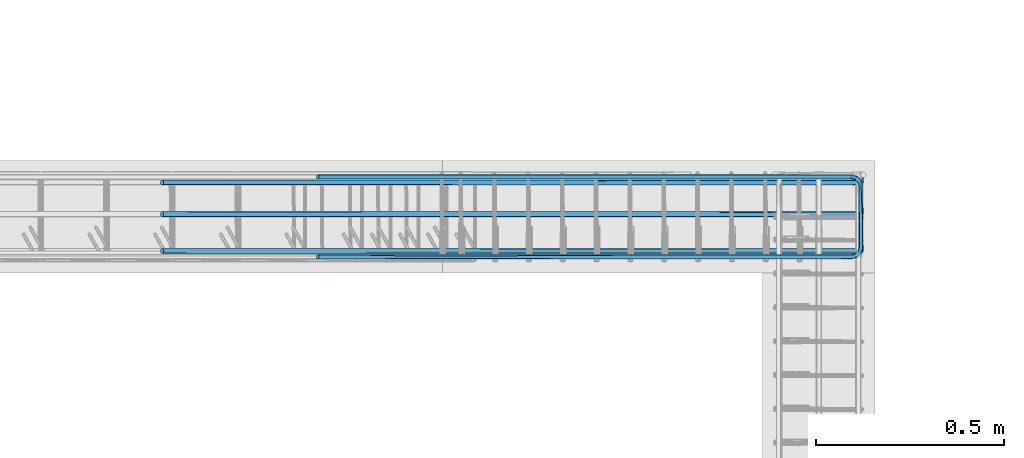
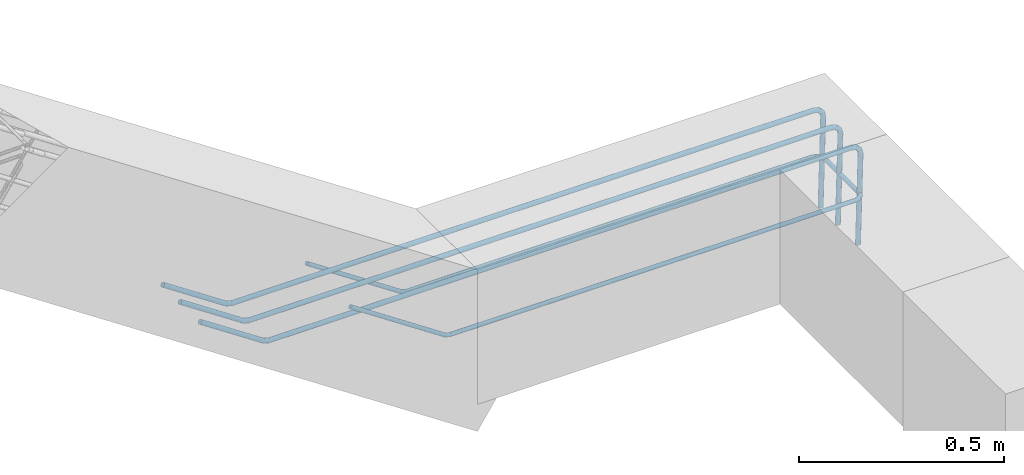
# One storey, part 18 of 24: 2 reinforcing bars.
"""IFC2X3 building model written with IfcOpenShell, lengths in metres."""

import ifcopenshell
import ifcopenshell.guid

model = None  # the IFC model being written
_history = None  # IfcOwnerHistory: only IFC2X3 demands one
_inside = {}  # id of a spatial element -> (the spatial element, [elements in it])
_under = {}  # id of a project, library or spatial element -> (it, [spatial elements below it])
_declared = {}  # id of a project -> (the project, [libraries it declares])
_typed = {}  # id of a type object -> (the type object, [elements of that type])
_made_of = {}  # id of a material, layer set ... -> (it, [elements and type objects made of it])


def new_model(schema):
    """Start an empty IFC model of exactly this schema.

    Asked for "IFC4X3", IfcOpenShell would pick the latest addendum, in which some entities
    have other attributes; the version numbers below select the first issue.
    IFC2X3 requires an IfcOwnerHistory on every rooted entity: one is made here for all.
    """
    global model, _history
    if schema == "IFC4X3":
        model = ifcopenshell.file(schema_version=(4, 3, 0, 0))
    else:
        model = ifcopenshell.file(schema=schema)
    _inside.clear()
    _under.clear()
    _declared.clear()
    _typed.clear()
    _made_of.clear()
    _history = None
    if model.schema == "IFC2X3":
        org = make("IfcOrganization", Name="unknown")
        user = make(
            "IfcPersonAndOrganization",
            ThePerson=make("IfcPerson", FamilyName="unknown"),
            TheOrganization=org,
        )
        app = make(
            "IfcApplication",
            ApplicationDeveloper=org,
            Version="unknown",
            ApplicationFullName="unknown",
            ApplicationIdentifier="unknown",
        )
        _history = make(
            "IfcOwnerHistory",
            OwningUser=user,
            OwningApplication=app,
            ChangeAction="ADDED",
            CreationDate=0,
        )
    return model


def make(cls, **values):
    """One entity of the class cls with the attributes given. An attribute that is None is left unset."""
    return model.create_entity(
        cls, **{name: value for name, value in values.items() if value is not None}
    )


def entity(cls, *values):
    """Any entity or typed value of the class cls, its attributes in the order of the schema. None: left unset."""
    e = model.create_entity(cls)
    for i, value in enumerate(values):
        if value is not None:
            e[i] = value
    return e


def rooted(cls, **values):
    """An entity with a GlobalId (a new one), such as an element, a storey or a relation."""
    return make(cls, GlobalId=ifcopenshell.guid.new(), OwnerHistory=_history, **values)


def si_unit(unit_type, name, prefix=None):
    """IfcSIUnit, for example si_unit("LENGTHUNIT", "METRE", prefix="MILLI")."""
    return make("IfcSIUnit", UnitType=unit_type, Prefix=prefix, Name=name)


def assignment(units):
    """IfcUnitAssignment: the units of a project."""
    return None if units is None else make("IfcUnitAssignment", Units=units)


def point(xyz):
    """IfcCartesianPoint."""
    return None if xyz is None else make("IfcCartesianPoint", Coordinates=xyz)


def direction(xyz):
    """IfcDirection."""
    return None if xyz is None else make("IfcDirection", DirectionRatios=xyz)


def frame(location, z_axis=None, x_axis=None):
    """IfcAxis2Placement3D, a coordinate frame: its origin and axes. An axis left out is left unset."""
    return make(
        "IfcAxis2Placement3D",
        Location=point(location),
        Axis=direction(z_axis),
        RefDirection=direction(x_axis),
    )


def origin():
    """The frame at (0, 0, 0) with its axes left unset."""
    return frame((0.0, 0.0, 0.0))


def place(relative_to, where):
    """IfcLocalPlacement: puts the frame where relative to a parent placement (None: the world)."""
    return make(
        "IfcLocalPlacement", PlacementRelTo=relative_to, RelativePlacement=where
    )


def context(
    kind, dimensions, precision=None, world=None, true_north=None, identifier=None
):
    """IfcGeometricRepresentationContext, for example the 3D "Model" context."""
    return make(
        "IfcGeometricRepresentationContext",
        ContextIdentifier=identifier,
        ContextType=kind,
        CoordinateSpaceDimension=dimensions,
        Precision=precision,
        WorldCoordinateSystem=world,
        TrueNorth=true_north,
    )


def subcontext(parent, identifier, kind, view, scale=None):
    """IfcGeometricRepresentationSubContext, for example "Body" below "Model"."""
    return make(
        "IfcGeometricRepresentationSubContext",
        ContextIdentifier=identifier,
        ContextType=kind,
        ParentContext=parent,
        TargetScale=scale,
        TargetView=view,
    )


def project(units=None, contexts=None):
    """IfcProject with its units and contexts."""
    return rooted(
        "IfcProject",
        Name="project",
        RepresentationContexts=contexts,
        UnitsInContext=assignment(units),
    )


def spatial(cls, under=None, at=None, **own):
    """A site, building, storey or space (cls), placed at a placement, below another one or the project."""
    s = rooted(cls, ObjectPlacement=at, **own)
    if under is not None:
        _under.setdefault(under.id(), (under, []))[1].append(s)
    return s


def shape(context_of_items, identifier, shape_type, items):
    """IfcShapeRepresentation: the items that make up one representation, for example the "Body"."""
    return make(
        "IfcShapeRepresentation",
        ContextOfItems=context_of_items,
        RepresentationIdentifier=identifier,
        RepresentationType=shape_type,
        Items=items,
    )


def source(mapping_origin, context_of_items, identifier, shape_type, items):
    """IfcRepresentationMap: a shape defined once, which mapped items show again and again."""
    return make(
        "IfcRepresentationMap",
        MappingOrigin=mapping_origin,
        MappedRepresentation=shape(context_of_items, identifier, shape_type, items),
    )


def transform(
    local_origin,
    x_axis=None,
    y_axis=None,
    z_axis=None,
    scale=None,
    scale2=None,
    scale3=None,
    uniform=True,
):
    """IfcCartesianTransformationOperator3D, or its non-uniform kind. x_axis, y_axis, z_axis: its Axis1, 2, 3."""
    if uniform:
        return make(
            "IfcCartesianTransformationOperator3D",
            Axis1=direction(x_axis),
            Axis2=direction(y_axis),
            LocalOrigin=point(local_origin),
            Scale=scale,
            Axis3=direction(z_axis),
        )
    return make(
        "IfcCartesianTransformationOperator3DnonUniform",
        Axis1=direction(x_axis),
        Axis2=direction(y_axis),
        LocalOrigin=point(local_origin),
        Scale=scale,
        Axis3=direction(z_axis),
        Scale2=scale2,
        Scale3=scale3,
    )


def mapped(mapping_source, mapping_target):
    """IfcMappedItem: shows the shape of a source again, moved by a transform."""
    return make(
        "IfcMappedItem", MappingSource=mapping_source, MappingTarget=mapping_target
    )


def made_of(thing, what):
    """Note that an element or type object is made of a material, layer set ...; save() writes the relation."""
    if what is not None:
        _made_of.setdefault(what.id(), (what, []))[1].append(thing)
    return thing


def element(
    cls,
    number,
    at=None,
    inside=None,
    cuts=None,
    type_object=None,
    material=None,
    context=None,
    identifier="Body",
    shape_type=None,
    held_by="IfcProductDefinitionShape",
    body=None,
    shapes=None,
    **own,
):
    """One element of the class cls, such as IfcWall. Its Tag is "e" and its number.

    at: its placement. inside: the storey or other place that contains it. cuts: it is an
    opening in that element (IfcRelVoidsElement). A single representation is given by context,
    identifier, shape_type and body (its items); several are given by shapes. held_by: the class
    of the entity that holds the representations. save() writes the other relations.
    """
    e = rooted(cls, Tag="e%d" % number, ObjectPlacement=at, **own)
    if body is not None:
        shapes = [shape(context, identifier, shape_type, body)]
    if shapes is not None:
        e.Representation = make(held_by, Representations=shapes)
    if inside is not None:
        _inside.setdefault(inside.id(), (inside, []))[1].append(e)
    if cuts is not None:
        rooted(
            "IfcRelVoidsElement", RelatingBuildingElement=cuts, RelatedOpeningElement=e
        )
    if type_object is not None:
        _typed.setdefault(type_object.id(), (type_object, []))[1].append(e)
    return made_of(e, material)


def aggregate(whole, parts):
    """IfcRelAggregates: a whole, such as a stair, and the parts it consists of."""
    return rooted("IfcRelAggregates", RelatingObject=whole, RelatedObjects=parts)


def save(model, path):
    """Write the relations noted so far, then the file.

    IfcRelAggregates (storeys below a building ...), IfcRelContainedInSpatialStructure (elements
    in a storey), IfcRelDefinesByType, IfcRelAssociatesMaterial and IfcRelDeclares: one each for
    every whole, place, type object, material and project.
    """
    for whole, parts in _under.values():
        aggregate(whole, parts)
    for where, things in _inside.values():
        rooted(
            "IfcRelContainedInSpatialStructure",
            RelatedElements=things,
            RelatingStructure=where,
        )
    for kind, things in _typed.values():
        rooted("IfcRelDefinesByType", RelatedObjects=things, RelatingType=kind)
    for what, things in _made_of.values():
        rooted("IfcRelAssociatesMaterial", RelatedObjects=things, RelatingMaterial=what)
    for by, libraries in _declared.values():
        rooted("IfcRelDeclares", RelatingContext=by, RelatedDefinitions=libraries)
    model.write(path)


model = new_model("IFC2X3")

# Units and contexts
model_context = context("Model", 3, precision=0.0, world=origin(), true_north=direction((0.0, 1.0)))
plan_context = context("Plan", 3, precision=0.0, world=origin(), true_north=direction((0.0, 1.0)))
body_context = subcontext(model_context, "Body", "Model", "MODEL_VIEW", scale=1.0)
ifc_project = project(units=[si_unit("LENGTHUNIT", "METRE"), si_unit("AREAUNIT", "SQUARE_METRE"), si_unit("VOLUMEUNIT", "CUBIC_METRE"), si_unit("PLANEANGLEUNIT", "RADIAN"), si_unit("THERMODYNAMICTEMPERATUREUNIT", "DEGREE_CELSIUS"), si_unit("FORCEUNIT", "NEWTON"), si_unit("MASSUNIT", "GRAM", prefix="KILO")], contexts=[model_context, plan_context])

# Site, building, storey
placement = place(None, origin())
site = spatial("IfcSite", under=ifc_project, at=placement, Name="Default Site", CompositionType="ELEMENT")
building = spatial("IfcBuilding", under=site, at=placement, Name="Default Building", CompositionType="ELEMENT")
storey_placement = place(placement, frame((0.0, 0.0, 3.3), z_axis=(1.0, 0.0, 0.0), x_axis=(0.0, 0.0, 1.0)))
storey = spatial("IfcBuildingStorey", under=building, at=storey_placement, Name="Piano 2", CompositionType="ELEMENT", Elevation=3.3)

# Reinforcing bars
shared_shape_1 = source(origin(), body_context, None, "AdvancedSweptSolid", [
    entity("IfcSweptDiskSolid", entity("IfcCompositeCurve", [entity("IfcCompositeCurveSegment", "CONTINUOUS", True, entity("IfcPolyline", [entity("IfcCartesianPoint", [0.0, 0.0, 0.0]), entity("IfcCartesianPoint", [0.177625, 0.0, -0.118417]), entity("IfcCartesianPoint", [0.193156, 0.0, -0.123119]), entity("IfcCartesianPoint", [0.732723, 0.0, -0.123119]), entity("IfcCartesianPoint", [1.830347, 0.0, -0.123119]), entity("IfcCartesianPoint", [1.844347, 0.000169, -0.126867]), entity("IfcCartesianPoint", [1.854596, 0.000632, -0.137105]), entity("IfcCartesianPoint", [1.858347, 0.001263, -0.151091]), entity("IfcCartesianPoint", [1.858347, 0.013729, -0.427119])]))], False), 0.007, 0.0, 0.0),
])
shared_shape_2 = source(origin(), body_context, None, "MappedRepresentation", [mapped(shared_shape_1, transform((15.253653, 4.909, 1.371119)))])
shared_shape_3 = source(origin(), body_context, None, "AdvancedSweptSolid", [
    entity("IfcSweptDiskSolid", entity("IfcCompositeCurve", [entity("IfcCompositeCurveSegment", "CONTINUOUS", True, entity("IfcPolyline", [entity("IfcCartesianPoint", [0.0, 0.0, 0.0]), entity("IfcCartesianPoint", [0.177625, 0.0, -0.118417]), entity("IfcCartesianPoint", [0.193156, 0.0, -0.123119]), entity("IfcCartesianPoint", [0.732723, 0.0, -0.123119]), entity("IfcCartesianPoint", [1.830347, 0.0, -0.123119]), entity("IfcCartesianPoint", [1.844347, 0.000169, -0.126867]), entity("IfcCartesianPoint", [1.854596, 0.000632, -0.137105]), entity("IfcCartesianPoint", [1.858347, 0.001263, -0.151091]), entity("IfcCartesianPoint", [1.858347, 0.013729, -0.427119])]))], False), 0.007, 0.0, 0.0),
])
shared_shape_4 = source(origin(), body_context, None, "MappedRepresentation", [mapped(shared_shape_3, transform((15.253653, 5.007, 1.371119)))])
shared_shape_5 = source(origin(), body_context, None, "AdvancedSweptSolid", [
    entity("IfcSweptDiskSolid", entity("IfcCompositeCurve", [entity("IfcCompositeCurveSegment", "CONTINUOUS", True, entity("IfcPolyline", [entity("IfcCartesianPoint", [0.0, 0.0, 0.0]), entity("IfcCartesianPoint", [0.177625, 0.0, -0.118417]), entity("IfcCartesianPoint", [0.193156, 0.0, -0.123119]), entity("IfcCartesianPoint", [0.732723, 0.0, -0.123119]), entity("IfcCartesianPoint", [1.830347, 0.0, -0.123119]), entity("IfcCartesianPoint", [1.844347, 0.000169, -0.126867]), entity("IfcCartesianPoint", [1.854596, 0.000632, -0.137105]), entity("IfcCartesianPoint", [1.858347, 0.001263, -0.151091]), entity("IfcCartesianPoint", [1.858347, 0.013729, -0.427119])]))], False), 0.007, 0.0, 0.0),
])
shared_shape_6 = source(origin(), body_context, None, "MappedRepresentation", [mapped(shared_shape_5, transform((15.253653, 5.091, 1.371119)))])
element("IfcReinforcingBar", 1, at=placement, inside=storey, Name="Arm Superiore; Trave:11 [Piano:2]", BarLength=6.586558, BarRole="MAIN", BarSurface="TEXTURED", NominalDiameter=0.014, shapes=[
    shape(body_context, None, "MappedRepresentation", [mapped(shared_shape_2, transform((0.0, 0.0, 0.0))), mapped(shared_shape_4, transform((0.0, 0.0, 0.0))), mapped(shared_shape_6, transform((0.0, 0.0, 0.0)))]),
])
shared_shape_7 = source(origin(), body_context, None, "AdvancedSweptSolid", [
    entity("IfcSweptDiskSolid", entity("IfcCompositeCurve", [entity("IfcCompositeCurveSegment", "CONTINUOUS", True, entity("IfcPolyline", [entity("IfcCartesianPoint", [0.0, 0.0, 0.0]), entity("IfcCartesianPoint", [0.265958, 0.0, -0.177306]), entity("IfcCartesianPoint", [0.279271, 0.0, -0.181336]), entity("IfcCartesianPoint", [1.33256, 0.0, -0.181336]), entity("IfcCartesianPoint", [1.42056, 0.0, -0.181336]), entity("IfcCartesianPoint", [1.43256, -0.003215, -0.181336]), entity("IfcCartesianPoint", [1.441344, -0.012, -0.181336]), entity("IfcCartesianPoint", [1.44456, -0.024, -0.181336]), entity("IfcCartesianPoint", [1.44456, -0.12, -0.181336])]))], False), 0.006, 0.0, 0.0),
])
shared_shape_8 = source(origin(), body_context, None, "MappedRepresentation", [mapped(shared_shape_7, transform((15.66744, 5.106, 1.280336)))])
shared_shape_9 = source(origin(), body_context, None, "AdvancedSweptSolid", [
    entity("IfcSweptDiskSolid", entity("IfcCompositeCurve", [entity("IfcCompositeCurveSegment", "CONTINUOUS", True, entity("IfcPolyline", [entity("IfcCartesianPoint", [0.0, 0.0, 0.0]), entity("IfcCartesianPoint", [0.265958, 0.0, -0.177306]), entity("IfcCartesianPoint", [0.279271, 0.0, -0.181336]), entity("IfcCartesianPoint", [1.33256, 0.0, -0.181336]), entity("IfcCartesianPoint", [1.42056, 0.0, -0.181336]), entity("IfcCartesianPoint", [1.43256, 0.003215, -0.181336]), entity("IfcCartesianPoint", [1.441344, 0.012, -0.181336]), entity("IfcCartesianPoint", [1.44456, 0.024, -0.181336]), entity("IfcCartesianPoint", [1.44456, 0.12, -0.181336])]))], False), 0.006, 0.0, 0.0),
])
shared_shape_10 = source(origin(), body_context, None, "MappedRepresentation", [mapped(shared_shape_9, transform((15.66744, 4.894, 1.280336)))])
element("IfcReinforcingBar", 2, at=placement, inside=storey, Name="Arm Generica; Trave:11 [Piano:2]", BarLength=3.216221, BarRole="NOTDEFINED", BarSurface="TEXTURED", NominalDiameter=0.012, shapes=[
    shape(body_context, None, "MappedRepresentation", [mapped(shared_shape_8, transform((0.0, 0.0, 0.0))), mapped(shared_shape_10, transform((0.0, 0.0, 0.0)))]),
])

save(model, "model.ifc")
